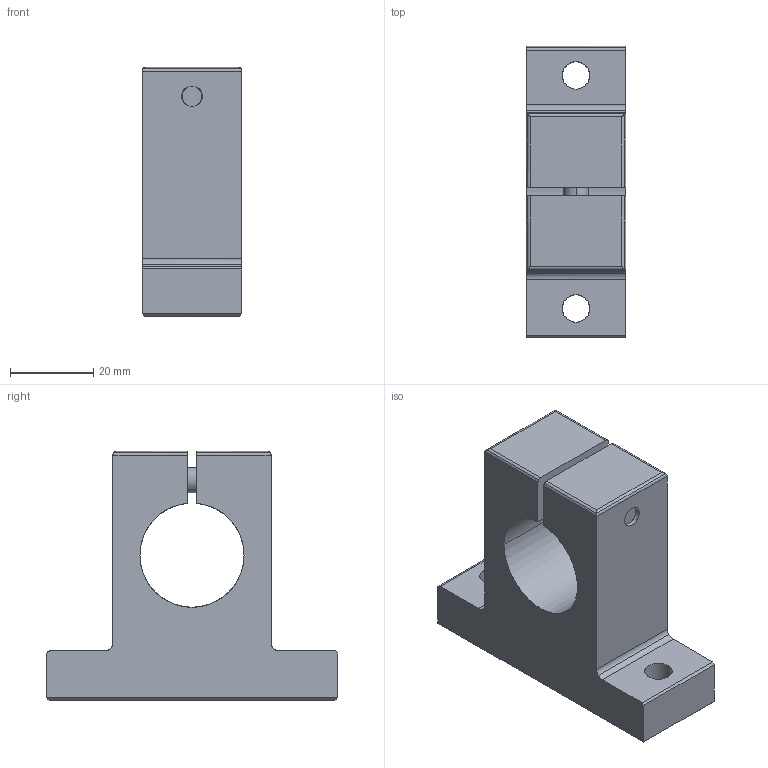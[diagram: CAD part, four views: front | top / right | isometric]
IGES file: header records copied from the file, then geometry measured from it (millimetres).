
Global section: file name: No Iges File Name specified; native system: AutoDesk Inventor R10; preprocessor: AutoDesk Inventor Iges Exporter R10; author: No Author specified; organization: No Organization specified; date: 20101214.153137; units: millimetre
Bounding box: 24 x 70 x 60 mm (x, y, z)
Surface area: 14020 mm2 (no closed solid volume)
Topology: 0 solids, 0 shells, 69 faces, 408 edges, 406 vertices
Faces by surface type: bspline 69
